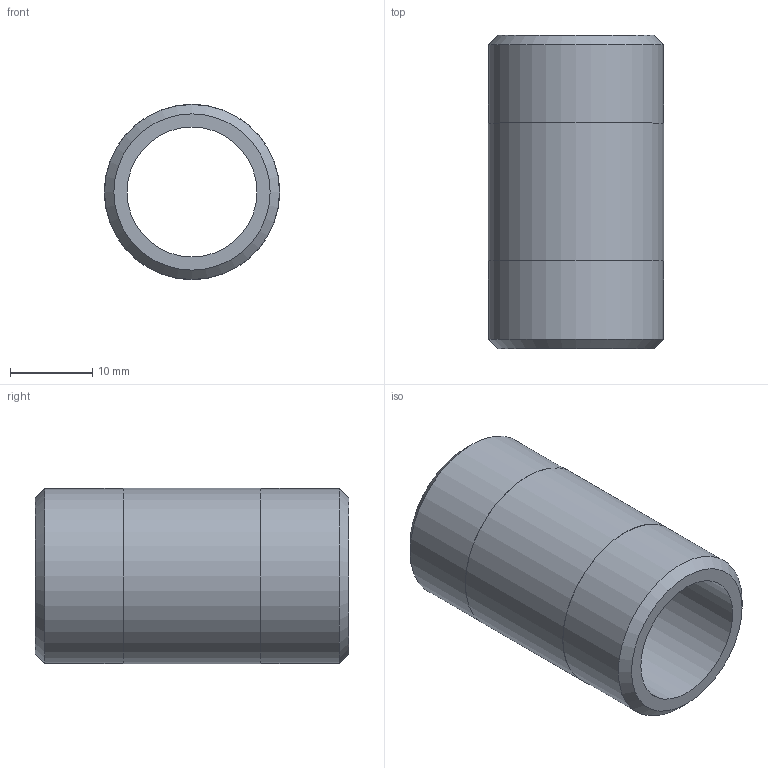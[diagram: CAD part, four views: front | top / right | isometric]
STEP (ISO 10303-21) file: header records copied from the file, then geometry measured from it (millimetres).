
FILE_DESCRIPTION(/* description */ (''),/* implementation_level */ '2;1');
FILE_NAME(/* name */ 'C:/Users/drich/Desktop/SSPN12-1-1_2 v1.step',/* time_stamp */ '2020-01-04T12:48:53-06:00',/* author */ (''),/* organization */ (''),/* preprocessor_version */ 'ST-DEVELOPER v18',/* originating_system */ 'Autodesk Translation Framework v8.12.0.6',/* authorisation */ '');
FILE_SCHEMA (('AUTOMOTIVE_DESIGN { 1 0 10303 214 3 1 1 }'));
Length unit declared in the file: inch
Products named in the file (1): SSPN12-1-1_2
Bounding box: 21.34 x 38.1 x 21.34 mm (x, y, z)
Volume: 6032.5 mm3; surface area: 4671.5 mm2
Topology: 1 solids, 1 shells, 10 faces, 24 edges, 18 vertices
Faces by surface type: cylinder 4, plane 4, cone 2
Full cylindrical faces by diameter (mm): 15.799 x1, 21.285 x2, 21.336 x1
Entity records: 353 total; most frequent: DIRECTION 64, CARTESIAN_POINT 53, ORIENTED_EDGE 48, AXIS2_PLACEMENT_3D 29, EDGE_CURVE 24, CIRCLE 18, VERTEX_POINT 18, EDGE_LOOP 14
